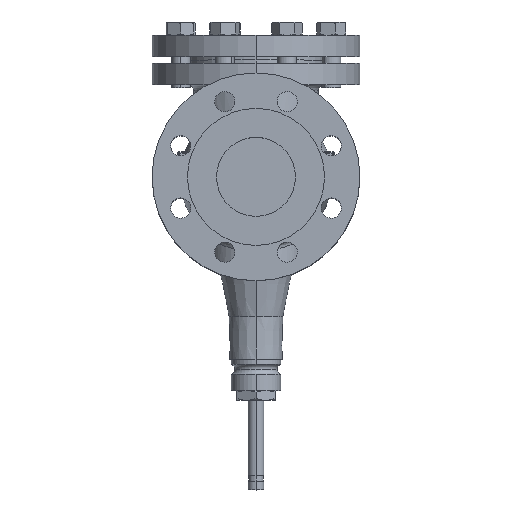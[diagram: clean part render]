
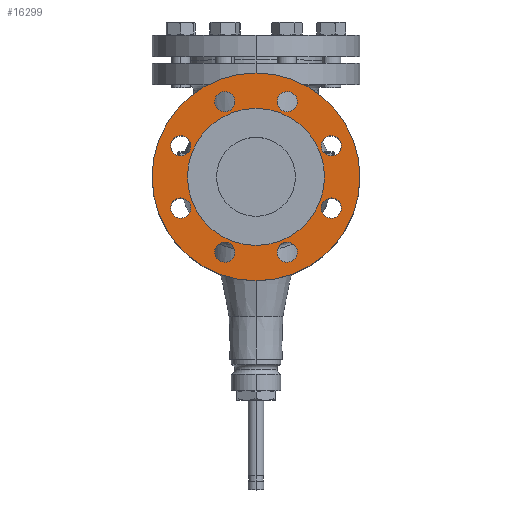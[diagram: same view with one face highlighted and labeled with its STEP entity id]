
A CAD part, top view. The second image highlights one B-rep face of the part: STEP entity #16299.
In plain terms, the highlighted planar face has unit normal (0, 0, 1).
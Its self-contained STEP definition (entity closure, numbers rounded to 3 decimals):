
#15475=CARTESIAN_POINT('',(0.,-92.5,287.));
#15476=VERTEX_POINT('',#15475);
#15492=CARTESIAN_POINT('',(0.,92.5,287.));
#15493=VERTEX_POINT('',#15492);
#15500=CARTESIAN_POINT('',(0.,0.,287.));
#15501=DIRECTION('',(0.0,0.0,1.0));
#15502=DIRECTION('',(0.0,-1.0,0.0));
#15503=AXIS2_PLACEMENT_3D('',#15500,#15501,#15502);
#15504=CIRCLE('',#15503,92.5);
#15505=EDGE_CURVE('',#15476,#15493,#15504,.T.);
#15515=CARTESIAN_POINT('',(-31.189,-75.296,287.));
#15516=VERTEX_POINT('',#15515);
#15525=CARTESIAN_POINT('',(-24.3,-58.666,287.));
#15526=VERTEX_POINT('',#15525);
#15527=CARTESIAN_POINT('',(-27.745,-66.981,287.));
#15528=DIRECTION('',(0.,0.,-1.));
#15529=DIRECTION('',(-0.383,-0.924,0.));
#15530=AXIS2_PLACEMENT_3D('',#15527,#15528,#15529);
#15531=CIRCLE('',#15530,9.0);
#15532=EDGE_CURVE('',#15526,#15516,#15531,.T.);
#15557=CARTESIAN_POINT('',(-75.296,-31.189,287.));
#15558=VERTEX_POINT('',#15557);
#15567=CARTESIAN_POINT('',(-58.666,-24.3,287.));
#15568=VERTEX_POINT('',#15567);
#15569=CARTESIAN_POINT('',(-66.981,-27.745,287.));
#15570=DIRECTION('',(0.,0.,-1.));
#15571=DIRECTION('',(-0.924,-0.383,0.));
#15572=AXIS2_PLACEMENT_3D('',#15569,#15570,#15571);
#15573=CIRCLE('',#15572,9.);
#15574=EDGE_CURVE('',#15568,#15558,#15573,.T.);
#15599=CARTESIAN_POINT('',(-75.296,31.189,287.));
#15600=VERTEX_POINT('',#15599);
#15609=CARTESIAN_POINT('',(-58.666,24.3,287.));
#15610=VERTEX_POINT('',#15609);
#15611=CARTESIAN_POINT('',(-66.981,27.745,287.));
#15612=DIRECTION('',(0.,0.,-1.));
#15613=DIRECTION('',(-0.924,0.383,0.));
#15614=AXIS2_PLACEMENT_3D('',#15611,#15612,#15613);
#15615=CIRCLE('',#15614,9.0);
#15616=EDGE_CURVE('',#15610,#15600,#15615,.T.);
#15641=CARTESIAN_POINT('',(-31.189,75.296,287.));
#15642=VERTEX_POINT('',#15641);
#15651=CARTESIAN_POINT('',(-24.3,58.666,287.));
#15652=VERTEX_POINT('',#15651);
#15653=CARTESIAN_POINT('',(-27.745,66.981,287.));
#15654=DIRECTION('',(0.,0.,-1.0));
#15655=DIRECTION('',(-0.383,0.924,0.));
#15656=AXIS2_PLACEMENT_3D('',#15653,#15654,#15655);
#15657=CIRCLE('',#15656,9.0);
#15658=EDGE_CURVE('',#15652,#15642,#15657,.T.);
#15683=CARTESIAN_POINT('',(31.189,75.296,287.));
#15684=VERTEX_POINT('',#15683);
#15693=CARTESIAN_POINT('',(24.3,58.666,287.));
#15694=VERTEX_POINT('',#15693);
#15695=CARTESIAN_POINT('',(27.745,66.981,287.));
#15696=DIRECTION('',(0.,0.,-1.));
#15697=DIRECTION('',(0.383,0.924,0.));
#15698=AXIS2_PLACEMENT_3D('',#15695,#15696,#15697);
#15699=CIRCLE('',#15698,9.);
#15700=EDGE_CURVE('',#15694,#15684,#15699,.T.);
#15725=CARTESIAN_POINT('',(75.296,31.189,287.));
#15726=VERTEX_POINT('',#15725);
#15735=CARTESIAN_POINT('',(58.666,24.3,287.));
#15736=VERTEX_POINT('',#15735);
#15737=CARTESIAN_POINT('',(66.981,27.745,287.));
#15738=DIRECTION('',(0.,0.,-1.));
#15739=DIRECTION('',(0.924,0.383,0.));
#15740=AXIS2_PLACEMENT_3D('',#15737,#15738,#15739);
#15741=CIRCLE('',#15740,9.);
#15742=EDGE_CURVE('',#15736,#15726,#15741,.T.);
#15767=CARTESIAN_POINT('',(75.296,-31.189,287.));
#15768=VERTEX_POINT('',#15767);
#15777=CARTESIAN_POINT('',(58.666,-24.3,287.));
#15778=VERTEX_POINT('',#15777);
#15779=CARTESIAN_POINT('',(66.981,-27.745,287.));
#15780=DIRECTION('',(0.,0.,-1.0));
#15781=DIRECTION('',(0.924,-0.383,0.));
#15782=AXIS2_PLACEMENT_3D('',#15779,#15780,#15781);
#15783=CIRCLE('',#15782,9.);
#15784=EDGE_CURVE('',#15778,#15768,#15783,.T.);
#15809=CARTESIAN_POINT('',(31.189,-75.296,287.));
#15810=VERTEX_POINT('',#15809);
#15819=CARTESIAN_POINT('',(24.3,-58.666,287.));
#15820=VERTEX_POINT('',#15819);
#15821=CARTESIAN_POINT('',(27.745,-66.981,287.));
#15822=DIRECTION('',(0.,0.,-1.0));
#15823=DIRECTION('',(0.383,-0.924,0.));
#15824=AXIS2_PLACEMENT_3D('',#15821,#15822,#15823);
#15825=CIRCLE('',#15824,9.0);
#15826=EDGE_CURVE('',#15820,#15810,#15825,.T.);
#15851=CARTESIAN_POINT('',(0.,-61.,287.));
#15852=VERTEX_POINT('',#15851);
#15861=CARTESIAN_POINT('',(0.,61.,287.));
#15862=VERTEX_POINT('',#15861);
#15863=CARTESIAN_POINT('',(0.,0.,287.));
#15864=DIRECTION('',(0.0,0.0,-1.0));
#15865=DIRECTION('',(0.0,-1.0,0.0));
#15866=AXIS2_PLACEMENT_3D('',#15863,#15864,#15865);
#15867=CIRCLE('',#15866,61.0);
#15868=EDGE_CURVE('',#15862,#15852,#15867,.T.);
#15968=CARTESIAN_POINT('',(0.,0.,287.));
#15969=DIRECTION('',(0.0,0.0,-1.0));
#15970=DIRECTION('',(0.0,-1.0,0.0));
#15971=AXIS2_PLACEMENT_3D('',#15968,#15969,#15970);
#15972=CIRCLE('',#15971,61.0);
#15973=EDGE_CURVE('',#15852,#15862,#15972,.T.);
#16006=CARTESIAN_POINT('',(27.745,-66.981,287.));
#16007=DIRECTION('',(0.,0.,-1.0));
#16008=DIRECTION('',(0.383,-0.924,0.));
#16009=AXIS2_PLACEMENT_3D('',#16006,#16007,#16008);
#16010=CIRCLE('',#16009,9.0);
#16011=EDGE_CURVE('',#15810,#15820,#16010,.T.);
#16030=CARTESIAN_POINT('',(66.981,-27.745,287.));
#16031=DIRECTION('',(0.,0.,-1.0));
#16032=DIRECTION('',(0.924,-0.383,0.));
#16033=AXIS2_PLACEMENT_3D('',#16030,#16031,#16032);
#16034=CIRCLE('',#16033,9.);
#16035=EDGE_CURVE('',#15768,#15778,#16034,.T.);
#16054=CARTESIAN_POINT('',(66.981,27.745,287.));
#16055=DIRECTION('',(0.,0.,-1.));
#16056=DIRECTION('',(0.924,0.383,0.));
#16057=AXIS2_PLACEMENT_3D('',#16054,#16055,#16056);
#16058=CIRCLE('',#16057,9.);
#16059=EDGE_CURVE('',#15726,#15736,#16058,.T.);
#16078=CARTESIAN_POINT('',(27.745,66.981,287.));
#16079=DIRECTION('',(0.,0.,-1.));
#16080=DIRECTION('',(0.383,0.924,0.));
#16081=AXIS2_PLACEMENT_3D('',#16078,#16079,#16080);
#16082=CIRCLE('',#16081,9.);
#16083=EDGE_CURVE('',#15684,#15694,#16082,.T.);
#16102=CARTESIAN_POINT('',(-27.745,66.981,287.));
#16103=DIRECTION('',(0.,0.,-1.0));
#16104=DIRECTION('',(-0.383,0.924,0.));
#16105=AXIS2_PLACEMENT_3D('',#16102,#16103,#16104);
#16106=CIRCLE('',#16105,9.0);
#16107=EDGE_CURVE('',#15642,#15652,#16106,.T.);
#16126=CARTESIAN_POINT('',(-66.981,27.745,287.));
#16127=DIRECTION('',(0.,0.,-1.));
#16128=DIRECTION('',(-0.924,0.383,0.));
#16129=AXIS2_PLACEMENT_3D('',#16126,#16127,#16128);
#16130=CIRCLE('',#16129,9.0);
#16131=EDGE_CURVE('',#15600,#15610,#16130,.T.);
#16150=CARTESIAN_POINT('',(-66.981,-27.745,287.));
#16151=DIRECTION('',(0.,0.,-1.));
#16152=DIRECTION('',(-0.924,-0.383,0.));
#16153=AXIS2_PLACEMENT_3D('',#16150,#16151,#16152);
#16154=CIRCLE('',#16153,9.);
#16155=EDGE_CURVE('',#15558,#15568,#16154,.T.);
#16174=CARTESIAN_POINT('',(-27.745,-66.981,287.));
#16175=DIRECTION('',(0.,0.,-1.));
#16176=DIRECTION('',(-0.383,-0.924,0.));
#16177=AXIS2_PLACEMENT_3D('',#16174,#16175,#16176);
#16178=CIRCLE('',#16177,9.0);
#16179=EDGE_CURVE('',#15516,#15526,#16178,.T.);
#16190=CARTESIAN_POINT('',(0.,0.,287.));
#16191=DIRECTION('',(0.0,0.0,1.0));
#16192=DIRECTION('',(0.0,-1.0,0.0));
#16193=AXIS2_PLACEMENT_3D('',#16190,#16191,#16192);
#16194=CIRCLE('',#16193,92.5);
#16195=EDGE_CURVE('',#15493,#15476,#16194,.T.);
#16254=CARTESIAN_POINT('',(0.,0.,287.));
#16255=DIRECTION('',(0.0,0.0,1.0));
#16256=DIRECTION('',(0.0,-1.0,0.0));
#16257=AXIS2_PLACEMENT_3D('',#16254,#16255,#16256);
#16258=PLANE('',#16257);
#16259=ORIENTED_EDGE('',*,*,#15505,.T.);
#16260=ORIENTED_EDGE('',*,*,#16195,.T.);
#16261=EDGE_LOOP('',(#16259,#16260));
#16262=FACE_OUTER_BOUND('',#16261,.T.);
#16263=ORIENTED_EDGE('',*,*,#15973,.T.);
#16264=ORIENTED_EDGE('',*,*,#15868,.T.);
#16265=EDGE_LOOP('',(#16263,#16264));
#16266=FACE_BOUND('',#16265,.T.);
#16267=ORIENTED_EDGE('',*,*,#16011,.T.);
#16268=ORIENTED_EDGE('',*,*,#15826,.T.);
#16269=EDGE_LOOP('',(#16267,#16268));
#16270=FACE_BOUND('',#16269,.T.);
#16271=ORIENTED_EDGE('',*,*,#16035,.T.);
#16272=ORIENTED_EDGE('',*,*,#15784,.T.);
#16273=EDGE_LOOP('',(#16271,#16272));
#16274=FACE_BOUND('',#16273,.T.);
#16275=ORIENTED_EDGE('',*,*,#16059,.T.);
#16276=ORIENTED_EDGE('',*,*,#15742,.T.);
#16277=EDGE_LOOP('',(#16275,#16276));
#16278=FACE_BOUND('',#16277,.T.);
#16279=ORIENTED_EDGE('',*,*,#16083,.T.);
#16280=ORIENTED_EDGE('',*,*,#15700,.T.);
#16281=EDGE_LOOP('',(#16279,#16280));
#16282=FACE_BOUND('',#16281,.T.);
#16283=ORIENTED_EDGE('',*,*,#16107,.T.);
#16284=ORIENTED_EDGE('',*,*,#15658,.T.);
#16285=EDGE_LOOP('',(#16283,#16284));
#16286=FACE_BOUND('',#16285,.T.);
#16287=ORIENTED_EDGE('',*,*,#16131,.T.);
#16288=ORIENTED_EDGE('',*,*,#15616,.T.);
#16289=EDGE_LOOP('',(#16287,#16288));
#16290=FACE_BOUND('',#16289,.T.);
#16291=ORIENTED_EDGE('',*,*,#16155,.T.);
#16292=ORIENTED_EDGE('',*,*,#15574,.T.);
#16293=EDGE_LOOP('',(#16291,#16292));
#16294=FACE_BOUND('',#16293,.T.);
#16295=ORIENTED_EDGE('',*,*,#16179,.T.);
#16296=ORIENTED_EDGE('',*,*,#15532,.T.);
#16297=EDGE_LOOP('',(#16295,#16296));
#16298=FACE_BOUND('',#16297,.T.);
#16299=ADVANCED_FACE('',(#16262,#16266,#16270,#16274,#16278,#16282,#16286,#16290,#16294,#16298),#16258,.T.);
